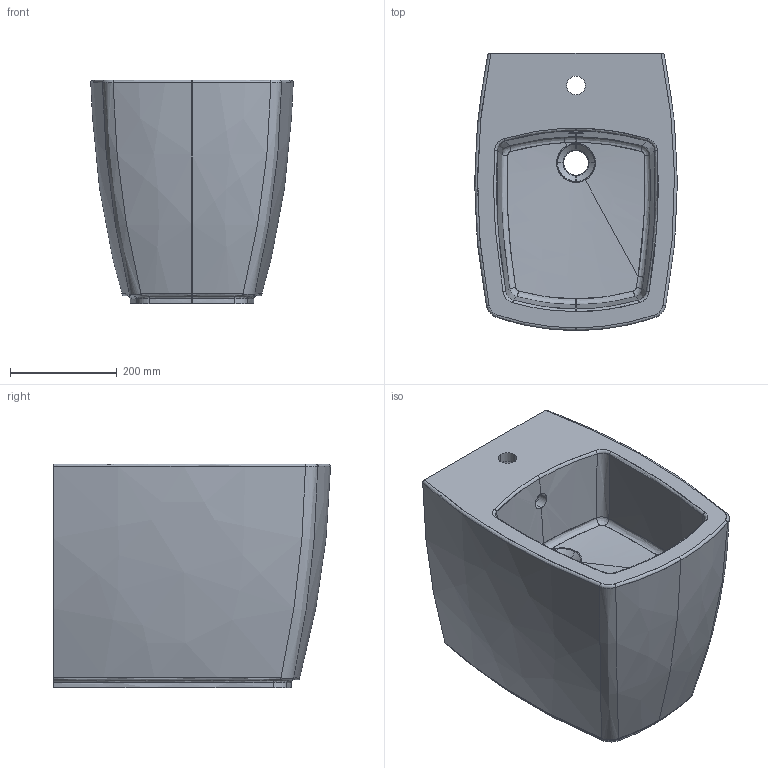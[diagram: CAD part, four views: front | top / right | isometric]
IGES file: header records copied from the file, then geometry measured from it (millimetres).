
Start section: START RECORD GO HERE.
Global section: file name: 8960_3D.igs; native system: DASSAULT SYSTEMES CATIA V5 R19 - www.3ds.com; preprocessor: CATIA Version 5 Release 19 SP 5 ; author: Luca; organization: DESKTOP-V7SON24; date: 20201203.100025; units: millimetre
Bounding box: 379.78 x 519.89 x 420 mm (x, y, z)
Surface area: 1022229.1 mm2 (no closed solid volume)
Topology: 0 solids, 0 shells, 101 faces, 480 edges, 480 vertices
Faces by surface type: bspline 75, revolution 17, plane 5, extrusion 4
